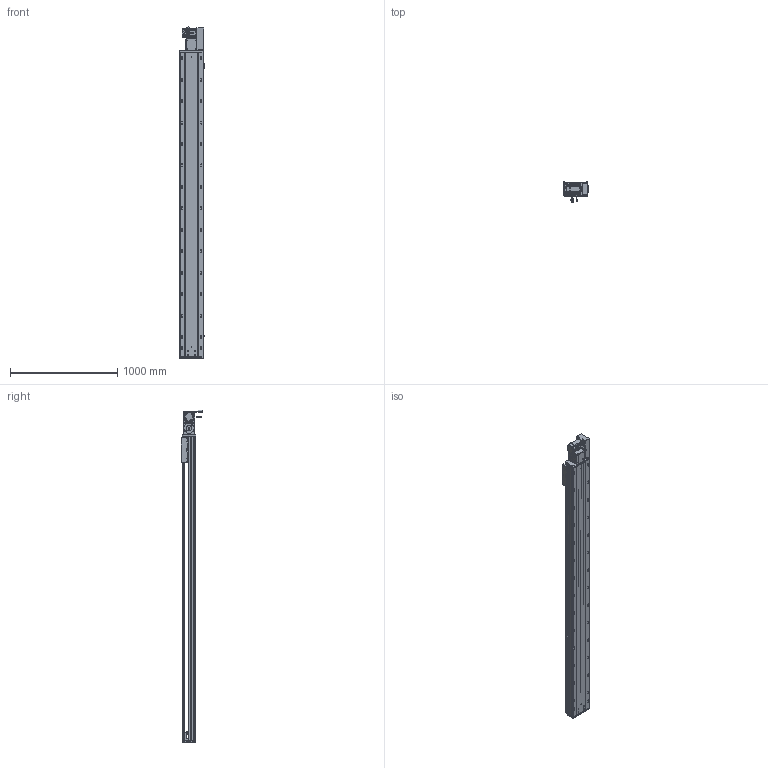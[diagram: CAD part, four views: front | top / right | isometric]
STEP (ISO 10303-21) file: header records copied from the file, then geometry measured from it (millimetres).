
FILE_DESCRIPTION (( 'STEP AP203' ), '1' );
FILE_NAME ('RY220-T-300-RK.SLDASM_2500.step', '2022-07-25T08:25:06', ( '' ), ( '' ), 'SwSTEP 2.0', 'SolidWorks 2016', '' );
FILE_SCHEMA (( 'CONFIG_CONTROL_DESIGN' ));
Length unit declared in the file: millimetre
Products named in the file (14): RY220翋肮祭謫釱; RY220-T-湍謫欶(鍼踢); RY220翋肮祭謫裔啣; RY220-T菁釱-300_2500; RY220-T-蛌殏萇儂假蚾啣(750W); 怢湛750W_ECMA-CX0807ES; 110A-T-肮祭謫釱傷裔; RY220-T-300-奻裔啣_2500; RY220圉猾敕々湍臏賑輸; RY220-俋离672覜茼んえ; RY220-同步轮副支撑座6304×2; RY220-T-300-RK.SLDASM_2500; 覜茼ん672; 滅袉蝶18-15
Assembly tree (18 placements, depth 2):
  RY220-T-300-RK.SLDASM_2500
    RY220-T菁釱-300_2500
    RY220翋肮祭謫釱
    覜茼ん672  x3
    RY220圉猾敕々湍臏賑輸
    RY220-T-300-奻裔啣_2500
    RY220-俋离672覜茼んえ
    滅袉蝶18-15  x3
    RY220翋肮祭謫裔啣  x2
    110A-T-肮祭謫釱傷裔
    怢湛750W_ECMA-CX0807ES
    RY220-T-湍謫欶(鍼踢)
    RY220-T-蛌殏萇儂假蚾啣(750W)
    RY220-同步轮副支撑座6304×2
Bounding box: 238.7 x 198.77 x 3095.24 mm (x, y, z)
Volume: 21965765.5 mm3; surface area: 6744922.3 mm2
Topology: 19 solids, 19 shells, 2936 faces, 8119 edges, 5096 vertices
Faces by surface type: cylinder 1436, plane 1069, cone 349, bspline 56, sphere 16, torus 10
Entity records: 97891 total; most frequent: CARTESIAN_POINT 27671, ORIENTED_EDGE 14522, DIRECTION 13972, EDGE_CURVE 7261, AXIS2_PLACEMENT_3D 5026, VERTEX_POINT 4720, LINE 3920, VECTOR 3920
